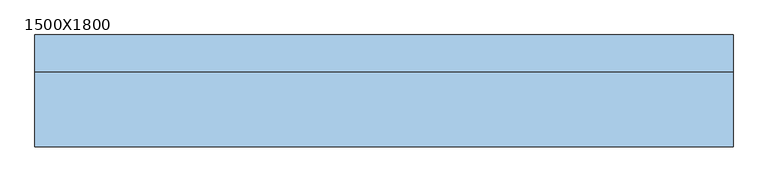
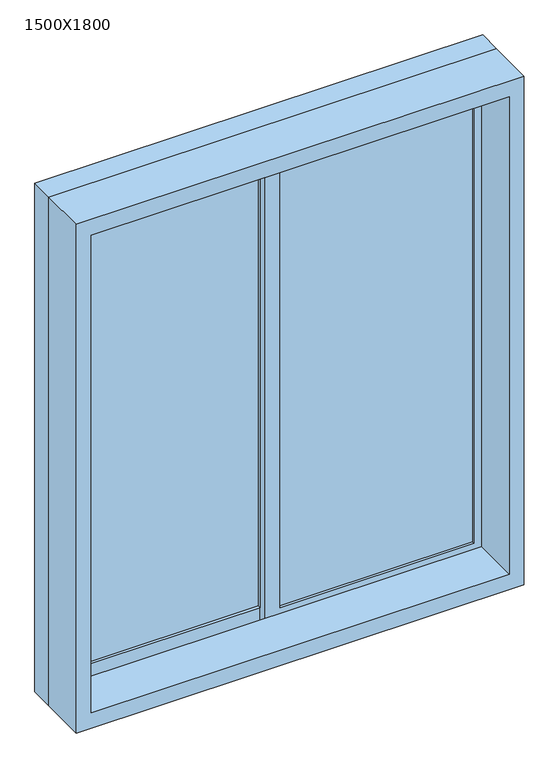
"""IFC4 building model written with IfcOpenShell, lengths in millimetres: window geometry, 推拉窗6 : 1500X1800."""

from ifc_helpers import new_model, si_unit, frame, origin, place, context, project, spatial, polyline, outline, extrude, source, transform, mapped, element, save


def window_1500x1800_ca295862(model_context):
    return source(origin(), model_context, "Body", "SweptSolid", [
        extrude(outline(polyline([(-665.475, 23.1265625), (-15.475, 23.1265625), (-15.475, 13.1265625), (-665.475, 13.1265625), (-665.475, 23.1265625)])), frame((0.0, 0.0, 675.0), z_axis=(0.0, 0.0, 1.0), x_axis=(1.0, 0.0, 0.0)), (0.0, 0.0, 1.0), 1650.0),
        extrude(outline(polyline([(34.525, -6.8734375), (684.525, -6.8734375), (684.525, -16.8734375), (34.525, -16.8734375), (34.525, -6.8734375)])), frame((0.0, 0.0, 675.0), z_axis=(0.0, 0.0, 1.0), x_axis=(1.0, 0.0, 0.0)), (0.0, 0.0, 1.0), 1650.0),
        extrude(outline(polyline([(2400.0, -740.475), (600.0, -740.475), (600.0, 759.525), (2400.0, 759.525), (2400.0, -740.475)]), holes=[polyline([(2345.0, 709.525), (655.0, 709.525), (655.0, -690.475), (2345.0, -690.475), (2345.0, 709.525)])]), frame((0.0, -186.8734375, 0.0), z_axis=(0.0, 1.0, 0.0), x_axis=(0.0, 0.0, 1.0)), (0.0, 0.0, 1.0), 160.0),
        extrude(outline(polyline([(625.0, 34.525), (2375.0, 34.525), (2375.0, -715.475), (625.0, -715.475), (625.0, 34.525)]), holes=[polyline([(675.0, -15.475), (675.0, -665.475), (2325.0, -665.475), (2325.0, -15.475), (675.0, -15.475)])]), frame((0.0, 3.1265625, 0.0), z_axis=(0.0, 1.0, 0.0), x_axis=(0.0, 0.0, 1.0)), (0.0, 0.0, 1.0), 30.0),
        extrude(outline(polyline([(2375.0, -15.475), (625.0, -15.475), (625.0, 734.525), (2375.0, 734.525), (2375.0, -15.475)]), holes=[polyline([(2325.0, 34.525), (2325.0, 684.525), (675.0, 684.525), (675.0, 34.525), (2325.0, 34.525)])]), frame((0.0, -26.8734375, 0.0), z_axis=(0.0, 1.0, 0.0), x_axis=(0.0, 0.0, 1.0)), (0.0, 0.0, 1.0), 30.0),
        extrude(outline(polyline([(2400.0, -740.475), (600.0, -740.475), (600.0, 759.525), (2400.0, 759.525), (2400.0, -740.475)]), holes=[polyline([(625.0, -715.475), (2375.0, -715.475), (2375.0, 734.525), (625.0, 734.525), (625.0, -715.475)])]), frame((0.0, -26.8734375, 0.0), z_axis=(0.0, 1.0, 0.0), x_axis=(0.0, 0.0, 1.0)), (0.0, 0.0, 1.0), 80.0),
    ])


if __name__ == "__main__":
    model = new_model("IFC4")
    model_context = context("Model", 3, world=origin())
    ifc_project = project(units=[si_unit("LENGTHUNIT", "METRE", prefix="MILLI")], contexts=[model_context])
    site = spatial("IfcSite", under=ifc_project)
    building = spatial("IfcBuilding", under=site)
    placement = place(None, origin())
    window_1500x1800_shape = window_1500x1800_ca295862(model_context)
    element("IfcWindow", 1, ObjectType="推拉窗6 : 1500X1800", at=placement, inside=building, context=model_context, shape_type="MappedRepresentation", body=[
        mapped(window_1500x1800_shape, transform((0.0, 0.0, 0.0), x_axis=(1.0, 0.0, 0.0), y_axis=(0.0, 1.0, 0.0), z_axis=(0.0, 0.0, 1.0))),
    ])
    save(model, "model.ifc")
